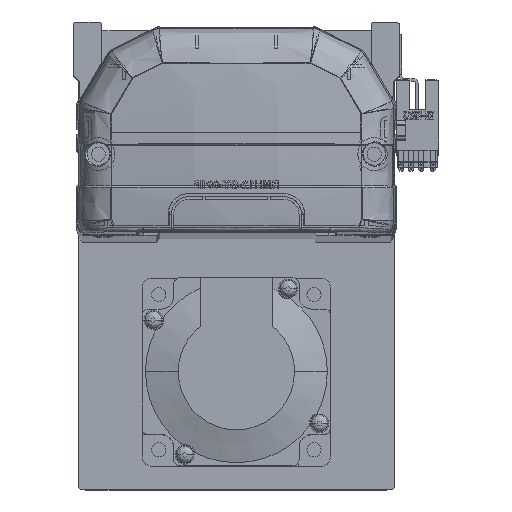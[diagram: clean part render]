
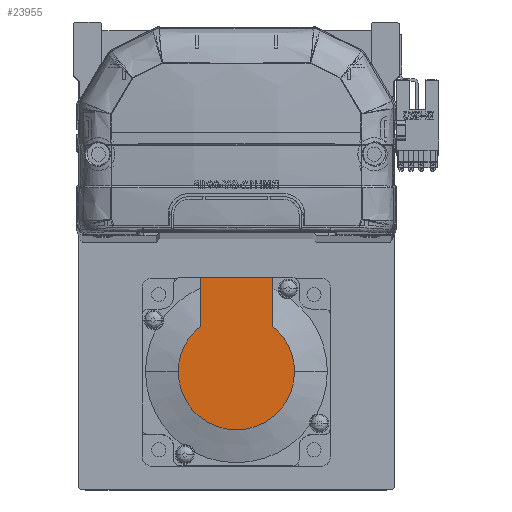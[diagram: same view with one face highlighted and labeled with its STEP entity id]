
A CAD part, top view. The second image highlights one B-rep face of the part: STEP entity #23955.
In plain terms, the highlighted planar face has unit normal (0, 0, 1) as drawn and (-1, 0, 0) by its records, which use the part's own axes.
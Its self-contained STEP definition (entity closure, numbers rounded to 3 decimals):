
#1959 = CARTESIAN_POINT ( 'NONE',  ( -79., 0., 18.538 ) ) ;
#2768 = LINE ( 'NONE', #58769, #4305 ) ;
#4305 = VECTOR ( 'NONE', #49701, 1000. ) ;
#5428 = DIRECTION ( 'NONE',  ( -1., 0., 0. ) ) ;
#5562 = AXIS2_PLACEMENT_3D ( 'NONE', #9315, #57202, #61620 ) ;
#8541 = EDGE_CURVE ( 'NONE', #36502, #20676, #2768, .T. ) ;
#8562 = VECTOR ( 'NONE', #11456, 1000. ) ;
#9315 = CARTESIAN_POINT ( 'NONE',  ( -79., -9.269, 0. ) ) ;
#9633 = DIRECTION ( 'NONE',  ( 0., -1., 0. ) ) ;
#11456 = DIRECTION ( 'NONE',  ( 0., 0., 1. ) ) ;
#16380 = LINE ( 'NONE', #31600, #40299 ) ;
#19699 = EDGE_LOOP ( 'NONE', ( #21115, #56155, #34189, #33440, #46347, #31604 ) ) ;
#20291 = VERTEX_POINT ( 'NONE', #34324 ) ;
#20676 = VERTEX_POINT ( 'NONE', #27264 ) ;
#21115 = ORIENTED_EDGE ( 'NONE', *, *, #8541, .T. ) ;
#21923 = DIRECTION ( 'NONE',  ( 0., 0., -1. ) ) ;
#22321 = VERTEX_POINT ( 'NONE', #30117 ) ;
#23955 = ADVANCED_FACE ( 'NONE', ( #44161 ), #56797, .T. ) ;
#25543 = CIRCLE ( 'NONE', #26817, 18.538 ) ;
#26817 = AXIS2_PLACEMENT_3D ( 'NONE', #45986, #55559, #21923 ) ;
#27264 = CARTESIAN_POINT ( 'NONE',  ( -79., 14.579, -11.45 ) ) ;
#29654 = CARTESIAN_POINT ( 'NONE',  ( -79., 0., -18.538 ) ) ;
#30117 = CARTESIAN_POINT ( 'NONE',  ( -79., 14.579, 11.45 ) ) ;
#30251 = CARTESIAN_POINT ( 'NONE',  ( -79., 30., 27. ) ) ;
#30449 = AXIS2_PLACEMENT_3D ( 'NONE', #39974, #49954, #54817 ) ;
#31600 = CARTESIAN_POINT ( 'NONE',  ( -79., 0., 11.45 ) ) ;
#31604 = ORIENTED_EDGE ( 'NONE', *, *, #52691, .F. ) ;
#33440 = ORIENTED_EDGE ( 'NONE', *, *, #34233, .T. ) ;
#34189 = ORIENTED_EDGE ( 'NONE', *, *, #58286, .T. ) ;
#34233 = EDGE_CURVE ( 'NONE', #42740, #22321, #36063, .T. ) ;
#34324 = CARTESIAN_POINT ( 'NONE',  ( -79., 30., 11.45 ) ) ;
#36063 = CIRCLE ( 'NONE', #30449, 18.538 ) ;
#36502 = VERTEX_POINT ( 'NONE', #46353 ) ;
#38062 = VERTEX_POINT ( 'NONE', #29654 ) ;
#38537 = LINE ( 'NONE', #30251, #8562 ) ;
#39117 = DIRECTION ( 'NONE',  ( 0., 0., -1. ) ) ;
#39974 = CARTESIAN_POINT ( 'NONE',  ( -79., 0., 0. ) ) ;
#40299 = VECTOR ( 'NONE', #9633, 1000. ) ;
#42292 = CARTESIAN_POINT ( 'NONE',  ( -79., 0., 0. ) ) ;
#42740 = VERTEX_POINT ( 'NONE', #1959 ) ;
#43411 = EDGE_CURVE ( 'NONE', #20676, #38062, #50445, .T. ) ;
#44161 = FACE_OUTER_BOUND ( 'NONE', #19699, .T. ) ;
#45986 = CARTESIAN_POINT ( 'NONE',  ( -79., 0., 0. ) ) ;
#46347 = ORIENTED_EDGE ( 'NONE', *, *, #59905, .F. ) ;
#46353 = CARTESIAN_POINT ( 'NONE',  ( -79., 30., -11.45 ) ) ;
#49701 = DIRECTION ( 'NONE',  ( 0., -1., 0. ) ) ;
#49954 = DIRECTION ( 'NONE',  ( -1., 0., 0. ) ) ;
#50445 = CIRCLE ( 'NONE', #61277, 18.538 ) ;
#52691 = EDGE_CURVE ( 'NONE', #36502, #20291, #38537, .T. ) ;
#54817 = DIRECTION ( 'NONE',  ( 0., 0., -1. ) ) ;
#55559 = DIRECTION ( 'NONE',  ( -1., 0., 0. ) ) ;
#56155 = ORIENTED_EDGE ( 'NONE', *, *, #43411, .T. ) ;
#56797 = PLANE ( 'NONE',  #5562 ) ;
#57202 = DIRECTION ( 'NONE',  ( -1., 0., 0. ) ) ;
#58286 = EDGE_CURVE ( 'NONE', #38062, #42740, #25543, .T. ) ;
#58769 = CARTESIAN_POINT ( 'NONE',  ( -79., -9.269, -11.45 ) ) ;
#59905 = EDGE_CURVE ( 'NONE', #20291, #22321, #16380, .T. ) ;
#61277 = AXIS2_PLACEMENT_3D ( 'NONE', #42292, #5428, #39117 ) ;
#61620 = DIRECTION ( 'NONE',  ( 0., 0., 1. ) ) ;
